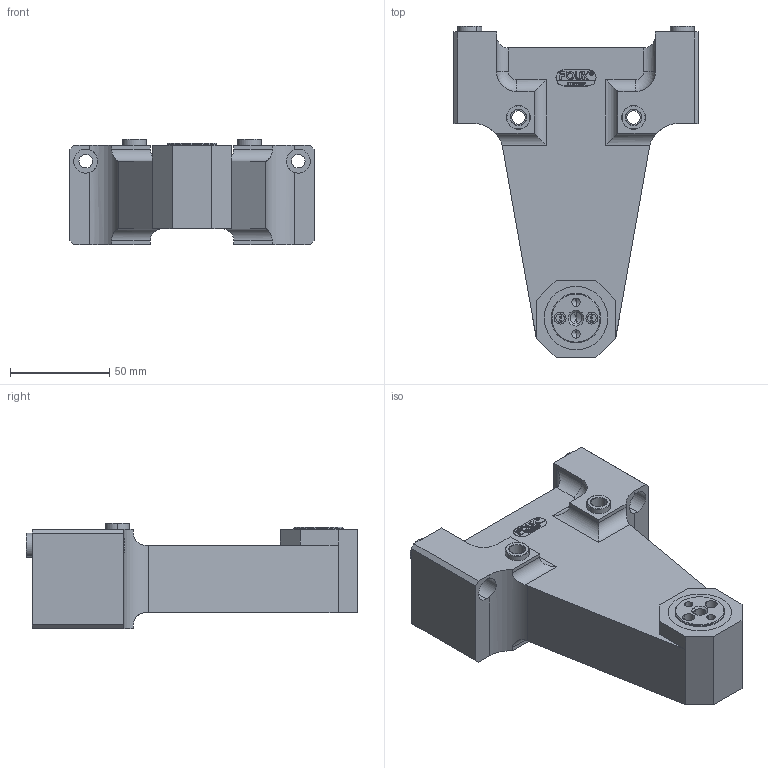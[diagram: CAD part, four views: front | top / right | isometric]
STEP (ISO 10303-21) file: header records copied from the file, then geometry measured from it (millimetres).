
FILE_DESCRIPTION (( 'STEP AP203' ), '1' );
FILE_NAME ('GS25-F.STEP', '2026-05-08T07:40:19', ( 'USER-' ), ( 'Microsoft' ), 'SwSTEP 2.0', 'SolidWorks 2018', '' );
FILE_SCHEMA (( 'CONFIG_CONTROL_DESIGN' ));
Length unit declared in the file: millimetre
Products named in the file (7): GS25-F-02 唅蛌粣; 20x8-R4; ﾏ擎ﾗ12｡ﾁ8｡ﾁ6; GB╱T 290-2017[一面带密封圈的开口型滚针轴承 HK 0000-RS型HK2516-RS]; GS25-F; GS25-F-01 褲极; GS25-F-03 唅蛌粣嘐隅遠
Assembly tree (9 placements, depth 2):
  GS25-F
    GS25-F-01 褲极
    GB╱T 290-2017[一面带密封圈的开口型滚针轴承 HK 0000-RS型HK2516-RS]
    GS25-F-02 唅蛌粣
    GS25-F-03 唅蛌粣嘐隅遠
    20x8-R4
    ﾏ擎ﾗ12｡ﾁ8｡ﾁ6  x4
Bounding box: 123 x 167 x 53 mm (x, y, z)
Volume: 426364.2 mm3; surface area: 67164.3 mm2
Topology: 10 solids, 10 shells, 692 faces, 1813 edges, 1177 vertices
Faces by surface type: plane 310, cylinder 159, bspline 155, cone 58, torus 10
Entity records: 26150 total; most frequent: CARTESIAN_POINT 9963, ORIENTED_EDGE 3446, DIRECTION 2729, EDGE_CURVE 1723, VERTEX_POINT 1129, VECTOR 1075, LINE 1075, AXIS2_PLACEMENT_3D 827
